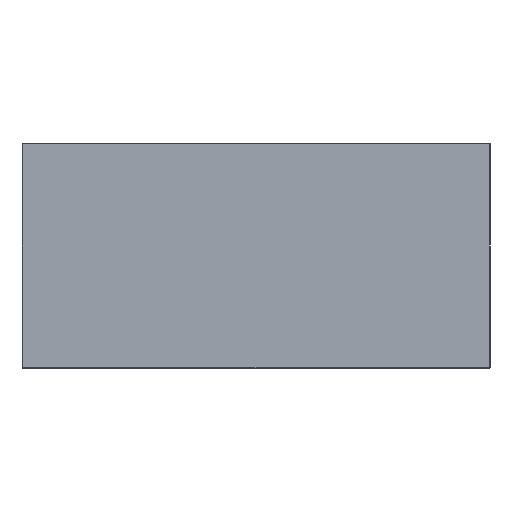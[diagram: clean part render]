
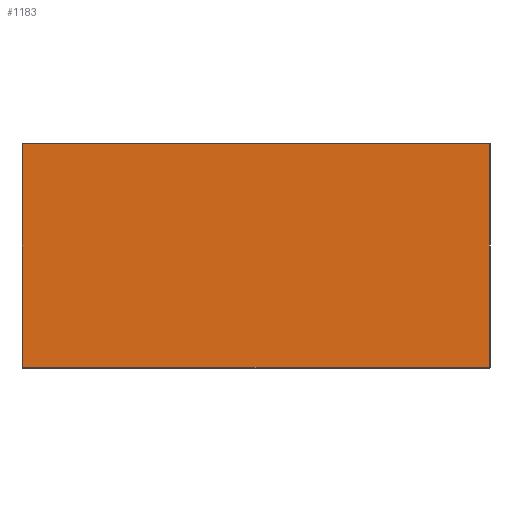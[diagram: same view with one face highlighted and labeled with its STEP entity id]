
A CAD part, front view. The second image highlights one B-rep face of the part: STEP entity #1183.
In plain terms, the highlighted planar face has unit normal (0, -1, 0).
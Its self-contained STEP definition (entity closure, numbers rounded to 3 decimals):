
#1156=AXIS2_PLACEMENT_3D('Plane Axis2P3D',#1153,#1154,#1155) ;
#1100=CARTESIAN_POINT('Vertex',(-2.,-200.,480.)) ;
#1103=CARTESIAN_POINT('Line Origine',(-2.,-200.,240.)) ;
#1107=CARTESIAN_POINT('Vertex',(-2.,-200.,2.)) ;
#1153=CARTESIAN_POINT('Axis2P3D Location',(0.,-200.,0.)) ;
#1158=CARTESIAN_POINT('Line Origine',(-500.,-200.,2.)) ;
#1162=CARTESIAN_POINT('Vertex',(-998.,-200.,2.)) ;
#1165=CARTESIAN_POINT('Line Origine',(-500.,-200.,480.)) ;
#1169=CARTESIAN_POINT('Vertex',(-998.,-200.,480.)) ;
#1172=CARTESIAN_POINT('Line Origine',(-998.,-200.,241.)) ;
#1104=DIRECTION('Vector Direction',(0.,0.,-1.)) ;
#1154=DIRECTION('Axis2P3D Direction',(0.,1.,-0.)) ;
#1155=DIRECTION('Axis2P3D XDirection',(-1.,0.,0.)) ;
#1159=DIRECTION('Vector Direction',(-1.,0.,0.)) ;
#1166=DIRECTION('Vector Direction',(1.,0.,0.)) ;
#1173=DIRECTION('Vector Direction',(0.,0.,1.)) ;
#1105=VECTOR('Line Direction',#1104,1.) ;
#1160=VECTOR('Line Direction',#1159,1.) ;
#1167=VECTOR('Line Direction',#1166,1.) ;
#1174=VECTOR('Line Direction',#1173,1.) ;
#1178=ORIENTED_EDGE('',*,*,#1164,.T.) ;
#1179=ORIENTED_EDGE('',*,*,#1109,.F.) ;
#1180=ORIENTED_EDGE('',*,*,#1171,.F.) ;
#1181=ORIENTED_EDGE('',*,*,#1176,.F.) ;
#1183=ADVANCED_FACE('STRUTTURA',(#1182),#1157,.F.) ;
#1109=EDGE_CURVE('',#1101,#1108,#1106,.T.) ;
#1164=EDGE_CURVE('',#1163,#1108,#1161,.F.) ;
#1171=EDGE_CURVE('',#1170,#1101,#1168,.T.) ;
#1176=EDGE_CURVE('',#1163,#1170,#1175,.T.) ;
#1177=EDGE_LOOP('',(#1178,#1179,#1180,#1181)) ;
#1182=FACE_OUTER_BOUND('',#1177,.T.) ;
#1106=LINE('Line',#1103,#1105) ;
#1161=LINE('Line',#1158,#1160) ;
#1168=LINE('Line',#1165,#1167) ;
#1175=LINE('Line',#1172,#1174) ;
#1157=PLANE('Plane',#1156) ;
#1101=VERTEX_POINT('',#1100) ;
#1108=VERTEX_POINT('',#1107) ;
#1163=VERTEX_POINT('',#1162) ;
#1170=VERTEX_POINT('',#1169) ;
